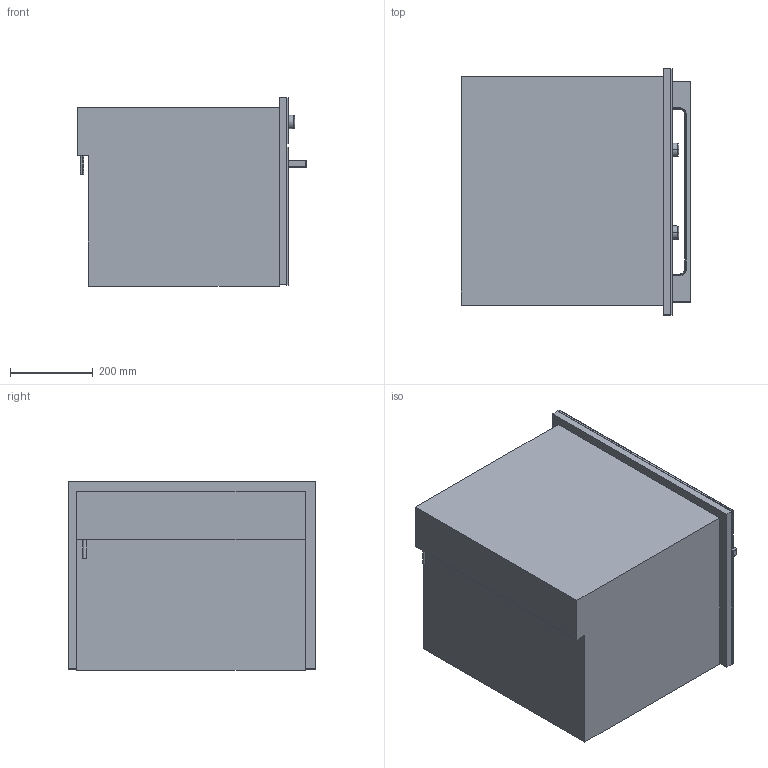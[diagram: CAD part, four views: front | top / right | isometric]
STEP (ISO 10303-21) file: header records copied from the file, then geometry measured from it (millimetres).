
FILE_DESCRIPTION(/* description */ (''),/* implementation_level */ '2;1');
FILE_NAME(/* name */ 'M6160_CLST',/* time_stamp */ '2013-04-22T14:50:17+02:00',/* author */ (''),/* organization */ (''),/* preprocessor_version */ 'ST-DEVELOPER v10',/* originating_system */ '',/* authorisation */ '');
FILE_SCHEMA (('AUTOMOTIVE_DESIGN_CC2'));
Length unit declared in the file: millimetre
Products named in the file (1): 1
Bounding box: 554.99 x 595.12 x 455.63 mm (x, y, z)
Volume: 71081635.5 mm3; surface area: 3577084.6 mm2
Topology: 11 solids, 11 shells, 146 faces, 327 edges, 193 vertices
Faces by surface type: bspline 146
Entity records: 4511 total; most frequent: CARTESIAN_POINT 2552, ORIENTED_EDGE 626, EDGE_CURVE 313, VERTEX_POINT 193, B_SPLINE_CURVE_WITH_KNOTS 169, EDGE_LOOP 154, ADVANCED_FACE 146, FACE_OUTER_BOUND 146
